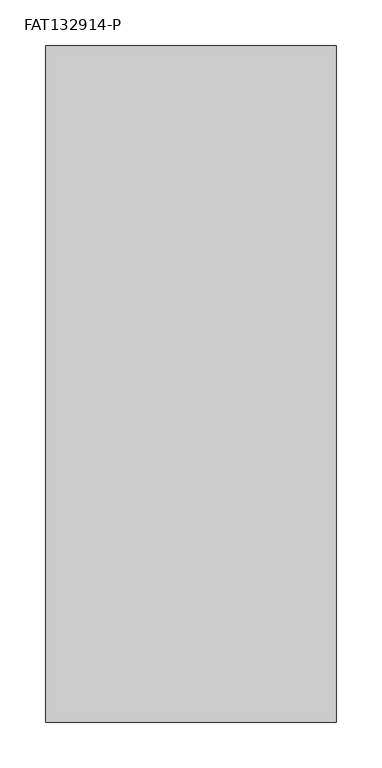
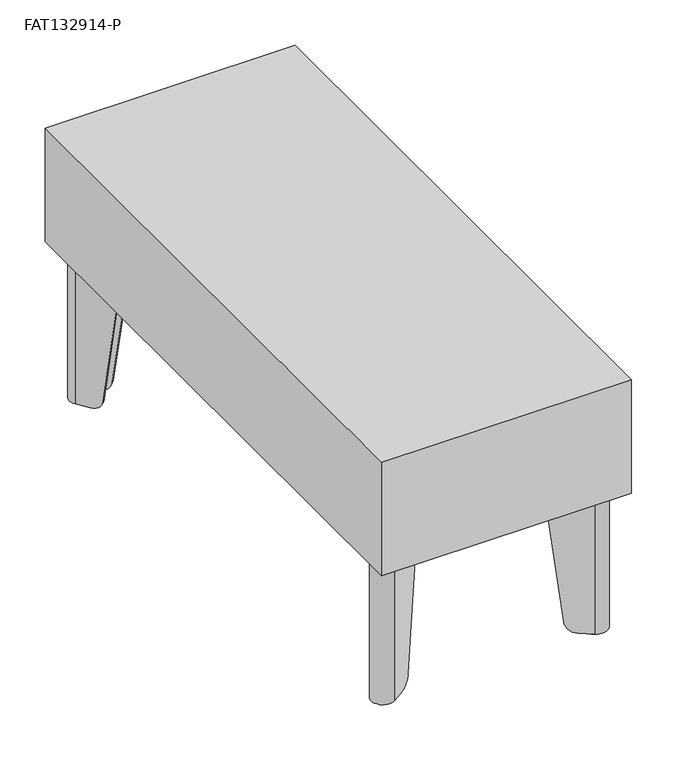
"""IFC4 building model written with IfcOpenShell, lengths in millimetres: furniture geometry, Stance_HC-Flora-Table_Straight : FAT132914-P."""

from ifc_helpers import new_model, si_unit, point, frame, frame_2d, origin, origin_with_axes, place, context, project, spatial, polyline, circle_curve, ellipse_curve, trimmed, segment, composite_curve, outline, extrude, source, transform, mapped, element, save
from ifc_brep_helpers import plane_surface, cylinder_surface, revolved_surface, advanced_brep


def fat132914_p_fcdb5983(model_context):
    return source(origin(), model_context, "Body", "SolidModel", [
        advanced_brep(
        [(274.3401042, -102.8613619, 193.6877233), (306.2642107, -57.26919, 193.6877233), (285.6391871, -36.6441664, 193.6877233), (240.0470178, -68.568271, 193.6877233), (241.8906556, -71.2012484, 193.6877233), (287.4828248, -39.2771437, 193.6877233), (303.6312333, -55.4255523, 193.6877233), (271.7071268, -101.0177242, 193.6877233), (274.3401042, -102.8613619, 189.1419595), (303.6312333, -55.4255523, 3.1876992), (293.5105238, -69.8793673, 3.1876992), (284.3334277, -82.9855678, 17.1280233), (287.4828248, -39.2771437, 3.1876992), (259.9228092, -58.5749494, 17.1280233), (273.0290098, -49.3978533, 3.1876992), (240.0470178, -68.568271, 189.1419334), (285.6391871, -36.6441664, 3.1876992), (270.7211121, -47.0899556, 3.1876992), (257.6149115, -56.2670517, 17.1280233), (306.2642107, -57.26919, 3.1876992), (286.6413254, -85.2934656, 17.1280233), (295.8184215, -72.187265, 3.1876992)],
        [
            (0, 1),
            (1, 2, circle_curve(frame((294.1333442, -48.7750329, 193.6877233), z_axis=(0.0, 0.0, 1.0), x_axis=(-1.0, 0.0, 0.0)), 14.8090724)),
            (2, 3),
            (3, 4),
            (4, 5),
            (5, 6, circle_curve(frame((294.1333442, -48.7750329, 193.6877233), z_axis=(0.0, 0.0, -1.0), x_axis=(-1.0, 0.0, 0.0)), 11.5947965)),
            (6, 7),
            (7, 0),
            (7, 8),
            (8, 0),
            (6, 9),
            (9, 10),
            (10, 11, ellipse_curve(frame((293.5105238, -69.8793673, 19.0626992), z_axis=(-0.8191509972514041, 0.5735779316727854, 0.0), x_axis=(-0.5735779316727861, -0.8191509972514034, 0.0)), 16.1198923, 15.875)),
            (11, 7),
            (5, 12),
            (12, 9, circle_curve(frame((294.1333442, -48.7750329, 3.1876992), z_axis=(0.0, 0.0, -1.0), x_axis=(-1.0, 0.0, 0.0)), 11.5947965)),
            (4, 13),
            (13, 14, ellipse_curve(frame((273.0290098, -49.3978533, 19.0626992), z_axis=(0.5735779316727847, -0.8191509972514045, 0.0), x_axis=(0.8191509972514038, 0.5735779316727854, 0.0)), 16.1198923, 15.875)),
            (14, 12),
            (3, 15),
            (15, 4),
            (2, 16),
            (16, 17),
            (17, 18, ellipse_curve(frame((270.7211121, -47.0899556, 19.0626992), z_axis=(-0.5735779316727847, 0.8191509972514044, 0.0), x_axis=(0.8191509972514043, 0.573577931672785, 0.0)), 16.1198923, 15.875)),
            (18, 15),
            (1, 19),
            (19, 16, circle_curve(frame((294.1333442, -48.7750329, 3.1876992), z_axis=(0.0, 0.0, 1.0), x_axis=(-1.0, 0.0, 0.0)), 14.8090724)),
            (8, 20),
            (20, 21, ellipse_curve(frame((295.8184215, -72.187265, 19.0626992), z_axis=(0.8191509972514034, -0.5735779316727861, 0.0), x_axis=(-0.5735779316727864, -0.8191509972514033, 0.0)), 16.1198923, 15.875)),
            (21, 19),
            (18, 13),
            (11, 20),
            (21, 10),
            (14, 17),
        ],
        [
            plane_surface(frame((271.7071268, -101.0177242, 193.6877233), z_axis=(0.0, 0.0, 1.0000000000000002), x_axis=(-0.8191509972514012, 0.5735779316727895, 0.0))),
            plane_surface(frame((274.3401042, -102.8613619, 193.6877233), z_axis=(-0.5735779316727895, -0.8191509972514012, 0.0), x_axis=(0.0, 0.0, -1.0))),
            plane_surface(frame((271.7071268, -101.0177242, 193.6877233), z_axis=(-0.8191509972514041, 0.5735779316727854, 0.0), x_axis=(0.0, 0.0, -1.0))),
            revolved_surface(polyline([(282.53854770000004, -48.7750329, 3.1876992), (282.53854770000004, -48.7750329, 193.6877233)]), (294.1333442, -48.7750329, 0.0), (0.0, 0.0, -1.0)),
            plane_surface(frame((287.4828248, -39.2771437, 193.6877233), z_axis=(0.5735779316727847, -0.8191509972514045, 0.0), x_axis=(0.0, 0.0, -1.0))),
            plane_surface(frame((241.8906556, -71.2012484, 193.6877233), z_axis=(-0.8191509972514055, -0.5735779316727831, 0.0), x_axis=(0.0, 0.0, -1.0))),
            plane_surface(frame((240.0470178, -68.568271, 193.6877233), z_axis=(-0.5735779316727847, 0.8191509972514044, 0.0), x_axis=(0.0, 0.0, -1.0))),
            cylinder_surface(frame((294.1333442, -48.7750329, 0.0), z_axis=(0.0, 0.0, 1.0), x_axis=(-1.0, 0.0, 0.0)), 14.8090724),
            plane_surface(frame((306.2642107, -57.26919, 193.6877233), z_axis=(0.8191509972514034, -0.5735779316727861, 0.0), x_axis=(0.0, 0.0, -1.0))),
            plane_surface(frame((251.7311084, -50.3832485, 17.1280233), z_axis=(-0.7018361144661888, -0.7018361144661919, -0.12186934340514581), x_axis=(0.7071067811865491, -0.707106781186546, 0.0))),
            plane_surface(frame((284.2214639, -17.8928931, 3.1876992), z_axis=(0.0, 0.0, -1.0), x_axis=(0.707106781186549, -0.707106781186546, 0.0))),
            cylinder_surface(frame((303.6583998, -80.0272433, 19.0626992), z_axis=(0.7071067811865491, -0.707106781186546, 0.0), x_axis=(-0.707106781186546, -0.7071067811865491, 0.0)), 15.875),
        ],
        [
            (0, [[1, 2, 3, 4, 5, 6, 7, 8]]),
            (1, [[9, 10, -8]]),
            (2, [[11, 12, 13, 14, -7]]),
            (3, [[15, 16, -11, -6]]),
            (4, [[17, 18, 19, -15, -5]]),
            (5, [[20, 21, -4]]),
            (6, [[22, 23, 24, 25, -20, -3]]),
            (7, [[26, 27, -22, -2]]),
            (8, [[-10, 28, 29, 30, -26, -1]]),
            (9, [[-17, -21, -25, 31]]),
            (9, [[-28, -9, -14, 32]]),
            (10, [[-23, -27, -30, 33, -12, -16, -19, 34]]),
            (11, [[-13, -33, -29, -32]]),
            (11, [[-24, -34, -18, -31]]),
        ],
    ),
        extrude(outline(composite_curve([segment(trimmed(circle_curve(frame_2d((292.1, -50.8)), 11.1125), [point((303.2125, -50.8))], [point((280.9875, -50.8))], False, "CARTESIAN"), True, "CONTINUOUS"), segment(trimmed(circle_curve(frame_2d((292.1, -50.8)), 11.1125), [point((280.9875, -50.8))], [point((303.2125, -50.8))], False, "CARTESIAN"), True, "CONTINUOUS")], self_intersect=False)), origin_with_axes(), (0.0, 0.0, 1.0), 3.175),
        extrude(outline(composite_curve([segment(trimmed(circle_curve(frame_2d((295.4524523, -47.4559239)), 15.8749964), [point((294.3450687, -31.6195983))], [point((311.288778, -48.5633073))], False, "CARTESIAN"), True, "CONTINUOUS"), segment(polyline([(311.288778, -48.5633073), (304.2918062, -148.6247029), (274.4414324, -178.4750713), (190.4983323, -152.4100523), (164.4332978, -68.4669439), (194.2836699, -38.6165718), (294.3450687, -31.6195983)]), True, "CONTINUOUS")], self_intersect=False)), frame((0.0, 0.0, 193.6877233), z_axis=(0.0, 0.0, 1.0), x_axis=(1.0, 0.0, 0.0)), (0.0, 0.0, 1.0), 4.7751809),
        advanced_brep(
        [(274.3401042, -659.1386381, 193.6877233), (271.7071268, -660.9822758, 193.6877233), (303.6312333, -706.5744477, 193.6877233), (287.4828248, -722.7228563, 193.6877233), (241.8906556, -690.7987516, 193.6877233), (240.0470178, -693.431729, 193.6877233), (285.6391871, -725.3558336, 193.6877233), (306.2642107, -704.73081, 193.6877233), (274.3401042, -659.1386381, 189.1419595), (284.3334277, -679.0144322, 17.1280233), (293.5105238, -692.1206327, 3.1876992), (303.6312333, -706.5744477, 3.1876992), (287.4828248, -722.7228563, 3.1876992), (273.0290098, -712.6021467, 3.1876992), (259.9228092, -703.4250506, 17.1280233), (240.0470178, -693.431729, 189.1419334), (257.6149115, -705.7329483, 17.1280233), (270.7211121, -714.9100444, 3.1876992), (285.6391871, -725.3558336, 3.1876992), (306.2642107, -704.73081, 3.1876992), (295.8184215, -689.812735, 3.1876992), (286.6413254, -676.7065344, 17.1280233)],
        [
            (0, 1),
            (1, 2),
            (2, 3, circle_curve(frame((294.1333442, -713.2249671, 193.6877233), z_axis=(0.0, 0.0, -1.0), x_axis=(-1.0, 0.0, 0.0)), 11.5947965)),
            (3, 4),
            (4, 5),
            (5, 6),
            (6, 7, circle_curve(frame((294.1333442, -713.2249671, 193.6877233), z_axis=(0.0, 0.0, 1.0), x_axis=(-1.0, 0.0, 0.0)), 14.8090724)),
            (7, 0),
            (0, 8),
            (8, 1),
            (1, 9),
            (9, 10, ellipse_curve(frame((293.5105238, -692.1206327, 19.0626992), z_axis=(-0.8191509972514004, -0.5735779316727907, 0.0), x_axis=(-0.5735779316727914, 0.8191509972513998, 0.0)), 16.1198923, 15.875)),
            (10, 11),
            (11, 2),
            (11, 12, circle_curve(frame((294.1333442, -713.2249671, 3.1876992), z_axis=(0.0, 0.0, -1.0), x_axis=(-1.0, 0.0, 0.0)), 11.5947965)),
            (12, 3),
            (12, 13),
            (13, 14, ellipse_curve(frame((273.0290098, -712.6021467, 19.0626992), z_axis=(0.5735779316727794, 0.8191509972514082, 0.0), x_axis=(0.8191509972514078, -0.5735779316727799, 0.0)), 16.1198923, 15.875)),
            (14, 4),
            (4, 15),
            (15, 5),
            (15, 16),
            (16, 17, ellipse_curve(frame((270.7211121, -714.9100444, 19.0626992), z_axis=(-0.5735779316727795, -0.8191509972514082, 0.0), x_axis=(0.8191509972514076, -0.5735779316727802, 0.0)), 16.1198923, 15.875)),
            (17, 18),
            (18, 6),
            (18, 19, circle_curve(frame((294.1333442, -713.2249671, 3.1876992), z_axis=(0.0, 0.0, 1.0), x_axis=(-1.0, 0.0, 0.0)), 14.8090724)),
            (19, 7),
            (19, 20),
            (20, 21, ellipse_curve(frame((295.8184215, -689.812735, 19.0626992), z_axis=(0.8191509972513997, 0.5735779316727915, 0.0), x_axis=(-0.573577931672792, 0.8191509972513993, 0.0)), 16.1198923, 15.875)),
            (21, 8),
            (14, 16),
            (21, 9),
            (17, 13),
            (10, 20),
        ],
        [
            plane_surface(frame((271.7071268, -660.9822758, 193.6877233), z_axis=(0.0, 0.0, 0.9999999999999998), x_axis=(-0.8191509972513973, -0.5735779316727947, 0.0))),
            plane_surface(frame((274.3401042, -659.1386381, 193.6877233), z_axis=(-0.5735779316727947, 0.8191509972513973, 0.0), x_axis=(0.0, 0.0, -1.0))),
            plane_surface(frame((271.7071268, -660.9822758, 193.6877233), z_axis=(-0.8191509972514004, -0.5735779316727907, 0.0), x_axis=(0.0, 0.0, -1.0))),
            revolved_surface(polyline([(282.53854770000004, -713.2249671, 3.1876992), (282.53854770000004, -713.2249671, 193.6877233)]), (294.1333442, -713.2249671, 0.0), (0.0, 0.0, -1.0)),
            plane_surface(frame((287.4828248, -722.7228563, 193.6877233), z_axis=(0.5735779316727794, 0.8191509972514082, 0.0), x_axis=(0.0, 0.0, -1.0))),
            plane_surface(frame((241.8906556, -690.7987516, 193.6877233), z_axis=(-0.8191509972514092, 0.5735779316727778, 0.0), x_axis=(0.0, 0.0, -1.0))),
            plane_surface(frame((240.0470178, -693.431729, 193.6877233), z_axis=(-0.5735779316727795, -0.8191509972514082, 0.0), x_axis=(0.0, 0.0, -1.0))),
            cylinder_surface(frame((294.1333442, -713.2249671, 0.0), z_axis=(0.0, 0.0, 1.0), x_axis=(-1.0, 0.0, 0.0)), 14.8090724),
            plane_surface(frame((306.2642107, -704.73081, 193.6877233), z_axis=(0.8191509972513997, 0.5735779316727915, 0.0), x_axis=(0.0, 0.0, -1.0))),
            plane_surface(frame((251.7311084, -711.6167515, 17.1280233), z_axis=(-0.7018361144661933, 0.7018361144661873, -0.12186934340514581), x_axis=(0.7071067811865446, 0.7071067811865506, 0.0))),
            plane_surface(frame((284.2214639, -744.1071069, 3.1876992), z_axis=(0.0, 0.0, -1.0), x_axis=(0.7071067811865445, 0.7071067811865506, 0.0))),
            cylinder_surface(frame((303.6583998, -681.9727567, 19.0626992), z_axis=(0.7071067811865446, 0.7071067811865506, 0.0), x_axis=(-0.7071067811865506, 0.7071067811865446, 0.0)), 15.875),
        ],
        [
            (0, [[1, 2, 3, 4, 5, 6, 7, 8]]),
            (1, [[-1, 9, 10]]),
            (2, [[-2, 11, 12, 13, 14]]),
            (3, [[-3, -14, 15, 16]]),
            (4, [[-4, -16, 17, 18, 19]]),
            (5, [[-5, 20, 21]]),
            (6, [[-6, -21, 22, 23, 24, 25]]),
            (7, [[-7, -25, 26, 27]]),
            (8, [[-8, -27, 28, 29, 30, -9]]),
            (9, [[31, -22, -20, -19]]),
            (9, [[32, -11, -10, -30]]),
            (10, [[33, -17, -15, -13, 34, -28, -26, -24]]),
            (11, [[-31, -18, -33, -23]]),
            (11, [[-32, -29, -34, -12]]),
        ],
    ),
        extrude(outline(composite_curve([segment(trimmed(circle_curve(frame_2d((292.1, -711.2)), 11.1125), [point((303.2125, -711.2))], [point((280.9875, -711.2))], False, "CARTESIAN"), True, "CONTINUOUS"), segment(trimmed(circle_curve(frame_2d((292.1, -711.2)), 11.1125), [point((280.9875, -711.2))], [point((303.2125, -711.2))], False, "CARTESIAN"), True, "CONTINUOUS")], self_intersect=False)), origin_with_axes(), (0.0, 0.0, 1.0), 3.175),
        extrude(outline(composite_curve([segment(polyline([(294.3450687, -730.3804017), (194.2836699, -723.3834282), (164.4332978, -693.5330561), (190.4983323, -609.5899477), (274.4414324, -583.5249287), (304.2918062, -613.3752971), (311.288778, -713.4366927)]), True, "CONTINUOUS"), segment(trimmed(circle_curve(frame_2d((295.4524523, -714.5440761)), 15.8749964), [point((311.288778, -713.4366927))], [point((294.3450687, -730.3804017))], False, "CARTESIAN"), True, "CONTINUOUS")], self_intersect=False)), frame((0.0, 0.0, 193.6877233), z_axis=(0.0, 0.0, 1.0), x_axis=(1.0, 0.0, 0.0)), (0.0, 0.0, 1.0), 4.7751809),
        advanced_brep(
        [(43.1598958, -659.1386381, 193.6877233), (11.2357893, -704.73081, 193.6877233), (31.8608129, -725.3558336, 193.6877233), (77.4529822, -693.431729, 193.6877233), (75.6093444, -690.7987516, 193.6877233), (30.0171752, -722.7228563, 193.6877233), (13.8687667, -706.5744477, 193.6877233), (45.7928732, -660.9822758, 193.6877233), (43.1598958, -659.1386381, 189.1419595), (13.8687667, -706.5744477, 3.1876992), (23.9894762, -692.1206327, 3.1876992), (33.1665723, -679.0144322, 17.1280233), (30.0171752, -722.7228563, 3.1876992), (57.5771908, -703.4250506, 17.1280233), (44.4709902, -712.6021467, 3.1876992), (77.4529822, -693.431729, 189.1419334), (31.8608129, -725.3558336, 3.1876992), (46.7788879, -714.9100444, 3.1876992), (59.8850885, -705.7329483, 17.1280233), (11.2357893, -704.73081, 3.1876992), (30.8586746, -676.7065344, 17.1280233), (21.6815785, -689.812735, 3.1876992)],
        [
            (0, 1),
            (1, 2, circle_curve(frame((23.3666558, -713.2249671, 193.6877233), z_axis=(0.0, 0.0, 1.0), x_axis=(1.0, 0.0, 0.0)), 14.8090724)),
            (2, 3),
            (3, 4),
            (4, 5),
            (5, 6, circle_curve(frame((23.3666558, -713.2249671, 193.6877233), z_axis=(0.0, 0.0, -1.0), x_axis=(1.0, 0.0, 0.0)), 11.5947965)),
            (6, 7),
            (7, 0),
            (7, 8),
            (8, 0),
            (6, 9),
            (9, 10),
            (10, 11, ellipse_curve(frame((23.9894762, -692.1206327, 19.0626992), z_axis=(0.8191509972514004, -0.5735779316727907, 0.0), x_axis=(0.5735779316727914, 0.8191509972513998, 0.0)), 16.1198923, 15.875)),
            (11, 7),
            (5, 12),
            (12, 9, circle_curve(frame((23.3666558, -713.2249671, 3.1876992), z_axis=(0.0, 0.0, -1.0), x_axis=(1.0, 0.0, 0.0)), 11.5947965)),
            (4, 13),
            (13, 14, ellipse_curve(frame((44.4709902, -712.6021467, 19.0626992), z_axis=(-0.5735779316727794, 0.8191509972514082, 0.0), x_axis=(-0.8191509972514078, -0.5735779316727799, 0.0)), 16.1198923, 15.875)),
            (14, 12),
            (3, 15),
            (15, 4),
            (2, 16),
            (16, 17),
            (17, 18, ellipse_curve(frame((46.7788879, -714.9100444, 19.0626992), z_axis=(0.5735779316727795, -0.8191509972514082, 0.0), x_axis=(-0.8191509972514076, -0.5735779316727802, 0.0)), 16.1198923, 15.875)),
            (18, 15),
            (1, 19),
            (19, 16, circle_curve(frame((23.3666558, -713.2249671, 3.1876992), z_axis=(0.0, 0.0, 1.0), x_axis=(1.0, 0.0, 0.0)), 14.8090724)),
            (8, 20),
            (20, 21, ellipse_curve(frame((21.6815785, -689.812735, 19.0626992), z_axis=(-0.8191509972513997, 0.5735779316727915, 0.0), x_axis=(0.573577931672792, 0.8191509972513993, 0.0)), 16.1198923, 15.875)),
            (21, 19),
            (18, 13),
            (11, 20),
            (21, 10),
            (14, 17),
        ],
        [
            plane_surface(frame((45.7928732, -660.9822758, 193.6877233), z_axis=(0.0, 0.0, 0.9999999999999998), x_axis=(0.8191509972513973, -0.5735779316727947, 0.0))),
            plane_surface(frame((43.1598958, -659.1386381, 193.6877233), z_axis=(0.5735779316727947, 0.8191509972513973, 0.0), x_axis=(0.0, 0.0, -1.0))),
            plane_surface(frame((45.7928732, -660.9822758, 193.6877233), z_axis=(0.8191509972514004, -0.5735779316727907, 0.0), x_axis=(0.0, 0.0, -1.0))),
            revolved_surface(polyline([(34.9614523, -713.2249671, 3.1876992), (34.9614523, -713.2249671, 193.6877233)]), (23.3666558, -713.2249671, 0.0), (0.0, 0.0, -1.0)),
            plane_surface(frame((30.0171752, -722.7228563, 193.6877233), z_axis=(-0.5735779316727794, 0.8191509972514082, 0.0), x_axis=(0.0, 0.0, -1.0))),
            plane_surface(frame((75.6093444, -690.7987516, 193.6877233), z_axis=(0.8191509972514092, 0.5735779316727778, 0.0), x_axis=(0.0, 0.0, -1.0))),
            plane_surface(frame((77.4529822, -693.431729, 193.6877233), z_axis=(0.5735779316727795, -0.8191509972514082, 0.0), x_axis=(0.0, 0.0, -1.0))),
            cylinder_surface(frame((23.3666558, -713.2249671, 0.0), z_axis=(0.0, 0.0, 1.0), x_axis=(1.0, 0.0, 0.0)), 14.8090724),
            plane_surface(frame((11.2357893, -704.73081, 193.6877233), z_axis=(-0.8191509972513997, 0.5735779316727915, 0.0), x_axis=(0.0, 0.0, -1.0))),
            plane_surface(frame((65.7688916, -711.6167515, 17.1280233), z_axis=(0.7018361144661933, 0.7018361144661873, -0.12186934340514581), x_axis=(-0.7071067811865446, 0.7071067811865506, 0.0))),
            plane_surface(frame((33.2785361, -744.1071069, 3.1876992), z_axis=(0.0, 0.0, -1.0), x_axis=(-0.7071067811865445, 0.7071067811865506, 0.0))),
            cylinder_surface(frame((13.8416002, -681.9727567, 19.0626992), z_axis=(-0.7071067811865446, 0.7071067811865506, 0.0), x_axis=(0.7071067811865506, 0.7071067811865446, 0.0)), 15.875),
        ],
        [
            (0, [[1, 2, 3, 4, 5, 6, 7, 8]]),
            (1, [[9, 10, -8]]),
            (2, [[11, 12, 13, 14, -7]]),
            (3, [[15, 16, -11, -6]]),
            (4, [[17, 18, 19, -15, -5]]),
            (5, [[20, 21, -4]]),
            (6, [[22, 23, 24, 25, -20, -3]]),
            (7, [[26, 27, -22, -2]]),
            (8, [[-10, 28, 29, 30, -26, -1]]),
            (9, [[-17, -21, -25, 31]]),
            (9, [[-28, -9, -14, 32]]),
            (10, [[-23, -27, -30, 33, -12, -16, -19, 34]]),
            (11, [[-13, -33, -29, -32]]),
            (11, [[-24, -34, -18, -31]]),
        ],
    ),
        extrude(outline(composite_curve([segment(trimmed(circle_curve(frame_2d((25.4, -711.2)), 11.1125), [point((14.2875, -711.2))], [point((36.5125, -711.2))], False, "CARTESIAN"), True, "CONTINUOUS"), segment(trimmed(circle_curve(frame_2d((25.4, -711.2)), 11.1125), [point((36.5125, -711.2))], [point((14.2875, -711.2))], False, "CARTESIAN"), True, "CONTINUOUS")], self_intersect=False)), origin_with_axes(), (0.0, 0.0, 1.0), 3.175),
        extrude(outline(composite_curve([segment(trimmed(circle_curve(frame_2d((22.0475477, -714.5440761)), 15.8749964), [point((23.1549313, -730.3804017))], [point((6.211222, -713.4366927))], False, "CARTESIAN"), True, "CONTINUOUS"), segment(polyline([(6.211222, -713.4366927), (13.2081938, -613.3752971), (43.0585676, -583.5249287), (127.0016677, -609.5899477), (153.0667022, -693.5330561), (123.2163301, -723.3834282), (23.1549313, -730.3804017)]), True, "CONTINUOUS")], self_intersect=False)), frame((0.0, 0.0, 193.6877233), z_axis=(0.0, 0.0, 1.0), x_axis=(1.0, 0.0, 0.0)), (0.0, 0.0, 1.0), 4.7751809),
        advanced_brep(
        [(43.1598958, -102.8613619, 193.6877233), (45.7928732, -101.0177242, 193.6877233), (13.8687667, -55.4255523, 193.6877233), (30.0171752, -39.2771437, 193.6877233), (75.6093444, -71.2012484, 193.6877233), (77.4529822, -68.568271, 193.6877233), (31.8608129, -36.6441664, 193.6877233), (11.2357893, -57.26919, 193.6877233), (43.1598958, -102.8613619, 189.1419595), (33.1665723, -82.9855678, 17.1280233), (23.9894762, -69.8793673, 3.1876992), (13.8687667, -55.4255523, 3.1876992), (30.0171752, -39.2771437, 3.1876992), (44.4709902, -49.3978533, 3.1876992), (57.5771908, -58.5749494, 17.1280233), (77.4529822, -68.568271, 189.1419334), (59.8850885, -56.2670517, 17.1280233), (46.7788879, -47.0899556, 3.1876992), (31.8608129, -36.6441664, 3.1876992), (11.2357893, -57.26919, 3.1876992), (21.6815785, -72.187265, 3.1876992), (30.8586746, -85.2934656, 17.1280233)],
        [
            (0, 1),
            (1, 2),
            (2, 3, circle_curve(frame((23.3666558, -48.7750329, 193.6877233), z_axis=(0.0, 0.0, -1.0), x_axis=(1.0, 0.0, 0.0)), 11.5947965)),
            (3, 4),
            (4, 5),
            (5, 6),
            (6, 7, circle_curve(frame((23.3666558, -48.7750329, 193.6877233), z_axis=(0.0, 0.0, 1.0), x_axis=(1.0, 0.0, 0.0)), 14.8090724)),
            (7, 0),
            (0, 8),
            (8, 1),
            (1, 9),
            (9, 10, ellipse_curve(frame((23.9894762, -69.8793673, 19.0626992), z_axis=(0.8191509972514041, 0.5735779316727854, 0.0), x_axis=(0.5735779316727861, -0.8191509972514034, 0.0)), 16.1198923, 15.875)),
            (10, 11),
            (11, 2),
            (11, 12, circle_curve(frame((23.3666558, -48.7750329, 3.1876992), z_axis=(0.0, 0.0, -1.0), x_axis=(1.0, 0.0, 0.0)), 11.5947965)),
            (12, 3),
            (12, 13),
            (13, 14, ellipse_curve(frame((44.4709902, -49.3978533, 19.0626992), z_axis=(-0.5735779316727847, -0.8191509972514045, 0.0), x_axis=(-0.8191509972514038, 0.5735779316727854, 0.0)), 16.1198923, 15.875)),
            (14, 4),
            (4, 15),
            (15, 5),
            (15, 16),
            (16, 17, ellipse_curve(frame((46.7788879, -47.0899556, 19.0626992), z_axis=(0.5735779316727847, 0.8191509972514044, 0.0), x_axis=(-0.8191509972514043, 0.573577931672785, 0.0)), 16.1198923, 15.875)),
            (17, 18),
            (18, 6),
            (18, 19, circle_curve(frame((23.3666558, -48.7750329, 3.1876992), z_axis=(0.0, 0.0, 1.0), x_axis=(1.0, 0.0, 0.0)), 14.8090724)),
            (19, 7),
            (19, 20),
            (20, 21, ellipse_curve(frame((21.6815785, -72.187265, 19.0626992), z_axis=(-0.8191509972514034, -0.5735779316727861, 0.0), x_axis=(0.5735779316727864, -0.8191509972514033, 0.0)), 16.1198923, 15.875)),
            (21, 8),
            (14, 16),
            (21, 9),
            (17, 13),
            (10, 20),
        ],
        [
            plane_surface(frame((45.7928732, -101.0177242, 193.6877233), z_axis=(0.0, 0.0, 1.0000000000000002), x_axis=(0.8191509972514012, 0.5735779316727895, 0.0))),
            plane_surface(frame((43.1598958, -102.8613619, 193.6877233), z_axis=(0.5735779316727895, -0.8191509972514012, 0.0), x_axis=(0.0, 0.0, -1.0))),
            plane_surface(frame((45.7928732, -101.0177242, 193.6877233), z_axis=(0.8191509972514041, 0.5735779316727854, 0.0), x_axis=(0.0, 0.0, -1.0))),
            revolved_surface(polyline([(34.9614523, -48.7750329, 3.1876992), (34.9614523, -48.7750329, 193.6877233)]), (23.3666558, -48.7750329, 0.0), (0.0, 0.0, -1.0)),
            plane_surface(frame((30.0171752, -39.2771437, 193.6877233), z_axis=(-0.5735779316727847, -0.8191509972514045, 0.0), x_axis=(0.0, 0.0, -1.0))),
            plane_surface(frame((75.6093444, -71.2012484, 193.6877233), z_axis=(0.8191509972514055, -0.5735779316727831, 0.0), x_axis=(0.0, 0.0, -1.0))),
            plane_surface(frame((77.4529822, -68.568271, 193.6877233), z_axis=(0.5735779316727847, 0.8191509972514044, 0.0), x_axis=(0.0, 0.0, -1.0))),
            cylinder_surface(frame((23.3666558, -48.7750329, 0.0), z_axis=(0.0, 0.0, 1.0), x_axis=(1.0, 0.0, 0.0)), 14.8090724),
            plane_surface(frame((11.2357893, -57.26919, 193.6877233), z_axis=(-0.8191509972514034, -0.5735779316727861, 0.0), x_axis=(0.0, 0.0, -1.0))),
            plane_surface(frame((65.7688916, -50.3832485, 17.1280233), z_axis=(0.7018361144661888, -0.7018361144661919, -0.12186934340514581), x_axis=(-0.7071067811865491, -0.707106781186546, 0.0))),
            plane_surface(frame((33.2785361, -17.8928931, 3.1876992), z_axis=(0.0, 0.0, -1.0), x_axis=(-0.707106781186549, -0.707106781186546, 0.0))),
            cylinder_surface(frame((13.8416002, -80.0272433, 19.0626992), z_axis=(-0.7071067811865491, -0.707106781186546, 0.0), x_axis=(0.707106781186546, -0.7071067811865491, 0.0)), 15.875),
        ],
        [
            (0, [[1, 2, 3, 4, 5, 6, 7, 8]]),
            (1, [[-1, 9, 10]]),
            (2, [[-2, 11, 12, 13, 14]]),
            (3, [[-3, -14, 15, 16]]),
            (4, [[-4, -16, 17, 18, 19]]),
            (5, [[-5, 20, 21]]),
            (6, [[-6, -21, 22, 23, 24, 25]]),
            (7, [[-7, -25, 26, 27]]),
            (8, [[-8, -27, 28, 29, 30, -9]]),
            (9, [[31, -22, -20, -19]]),
            (9, [[32, -11, -10, -30]]),
            (10, [[33, -17, -15, -13, 34, -28, -26, -24]]),
            (11, [[-31, -18, -33, -23]]),
            (11, [[-32, -29, -34, -12]]),
        ],
    ),
        extrude(outline(composite_curve([segment(trimmed(circle_curve(frame_2d((25.4, -50.8)), 11.1125), [point((14.2875, -50.8))], [point((36.5125, -50.8))], False, "CARTESIAN"), True, "CONTINUOUS"), segment(trimmed(circle_curve(frame_2d((25.4, -50.8)), 11.1125), [point((36.5125, -50.8))], [point((14.2875, -50.8))], False, "CARTESIAN"), True, "CONTINUOUS")], self_intersect=False)), origin_with_axes(), (0.0, 0.0, 1.0), 3.175),
        extrude(outline(composite_curve([segment(polyline([(23.1549313, -31.6195983), (123.2163301, -38.6165718), (153.0667022, -68.4669439), (127.0016677, -152.4100523), (43.0585676, -178.4750713), (13.2081938, -148.6247029), (6.211222, -48.5633073)]), True, "CONTINUOUS"), segment(trimmed(circle_curve(frame_2d((22.0475477, -47.4559239)), 15.8749964), [point((6.211222, -48.5633073))], [point((23.1549313, -31.6195983))], False, "CARTESIAN"), True, "CONTINUOUS")], self_intersect=False)), frame((0.0, 0.0, 193.6877233), z_axis=(0.0, 0.0, 1.0), x_axis=(1.0, 0.0, 0.0)), (0.0, 0.0, 1.0), 4.7751809),
        extrude(outline(polyline([(317.5, -11.1125), (317.5, -750.8875), (0.0, -750.8875), (0.0, -11.1125), (317.5, -11.1125)])), frame((0.0, 0.0, 196.85), z_axis=(0.0, 0.0, 1.0), x_axis=(1.0, 0.0, 0.0)), (0.0, 0.0, 1.0), 152.399991),
    ])


if __name__ == "__main__":
    model = new_model("IFC4")
    model_context = context("Model", 3, world=origin())
    ifc_project = project(units=[si_unit("LENGTHUNIT", "METRE", prefix="MILLI")], contexts=[model_context])
    site = spatial("IfcSite", under=ifc_project)
    building = spatial("IfcBuilding", under=site)
    placement = place(None, origin())
    fat132914_p_shape = fat132914_p_fcdb5983(model_context)
    element("IfcFurniture", 1, ObjectType="Stance_HC-Flora-Table_Straight : FAT132914-P", at=placement, inside=building, context=model_context, shape_type="MappedRepresentation", body=[
        mapped(fat132914_p_shape, transform((0.0, 0.0, 0.0), x_axis=(1.0, 0.0, 0.0), y_axis=(0.0, 1.0, 0.0), z_axis=(0.0, 0.0, 1.0))),
    ])
    save(model, "model.ifc")
